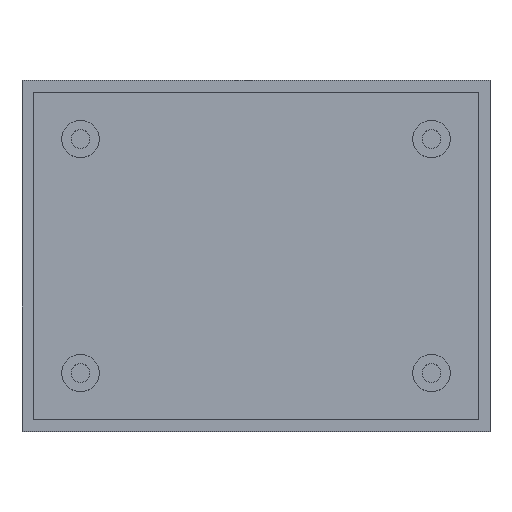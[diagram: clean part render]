
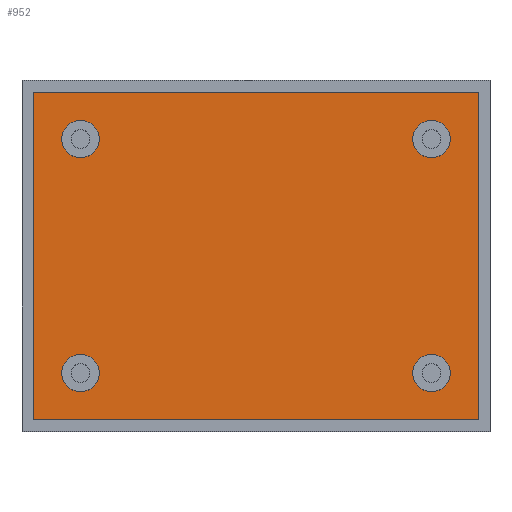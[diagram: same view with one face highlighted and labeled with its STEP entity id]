
A CAD part, top view. The second image highlights one B-rep face of the part: STEP entity #952.
In plain terms, the highlighted planar face has unit normal (0, 0, 1).
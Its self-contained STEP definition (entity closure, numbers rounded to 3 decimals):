
#388 = PLANE('',#389);
#389 = AXIS2_PLACEMENT_3D('',#390,#391,#392);
#390 = CARTESIAN_POINT('',(-38.,-28.,2.));
#391 = DIRECTION('',(0.,1.,0.));
#392 = DIRECTION('',(0.,0.,1.));
#414 = PLANE('',#415);
#415 = AXIS2_PLACEMENT_3D('',#416,#417,#418);
#416 = CARTESIAN_POINT('',(-38.,-28.,2.));
#417 = DIRECTION('',(1.,0.,0.));
#418 = DIRECTION('',(0.,0.,1.));
#440 = PLANE('',#441);
#441 = AXIS2_PLACEMENT_3D('',#442,#443,#444);
#442 = CARTESIAN_POINT('',(-38.,28.,2.));
#443 = DIRECTION('',(0.,1.,0.));
#444 = DIRECTION('',(0.,0.,1.));
#464 = PLANE('',#465);
#465 = AXIS2_PLACEMENT_3D('',#466,#467,#468);
#466 = CARTESIAN_POINT('',(38.,-28.,2.));
#467 = DIRECTION('',(1.,0.,0.));
#468 = DIRECTION('',(0.,0.,1.));
#750 = VERTEX_POINT('',#751);
#751 = CARTESIAN_POINT('',(38.,-28.,2.));
#772 = EDGE_CURVE('',#773,#750,#775,.T.);
#773 = VERTEX_POINT('',#774);
#774 = CARTESIAN_POINT('',(-38.,-28.,2.));
#775 = SURFACE_CURVE('',#776,(#780,#787),.PCURVE_S1.);
#776 = LINE('',#777,#778);
#777 = CARTESIAN_POINT('',(-38.,-28.,2.));
#778 = VECTOR('',#779,1.);
#779 = DIRECTION('',(1.,0.,0.));
#780 = PCURVE('',#388,#781);
#781 = DEFINITIONAL_REPRESENTATION('',(#782),#786);
#782 = LINE('',#783,#784);
#783 = CARTESIAN_POINT('',(0.,0.));
#784 = VECTOR('',#785,1.);
#785 = DIRECTION('',(0.,1.));
#786 = ( GEOMETRIC_REPRESENTATION_CONTEXT(2) 
PARAMETRIC_REPRESENTATION_CONTEXT() REPRESENTATION_CONTEXT('2D SPACE',''
  ) );
#787 = PCURVE('',#788,#793);
#788 = PLANE('',#789);
#789 = AXIS2_PLACEMENT_3D('',#790,#791,#792);
#790 = CARTESIAN_POINT('',(-38.,-28.,2.));
#791 = DIRECTION('',(0.,0.,1.));
#792 = DIRECTION('',(1.,0.,0.));
#793 = DEFINITIONAL_REPRESENTATION('',(#794),#798);
#794 = LINE('',#795,#796);
#795 = CARTESIAN_POINT('',(0.,0.));
#796 = VECTOR('',#797,1.);
#797 = DIRECTION('',(1.,0.));
#798 = ( GEOMETRIC_REPRESENTATION_CONTEXT(2) 
PARAMETRIC_REPRESENTATION_CONTEXT() REPRESENTATION_CONTEXT('2D SPACE',''
  ) );
#832 = EDGE_CURVE('',#750,#833,#835,.T.);
#833 = VERTEX_POINT('',#834);
#834 = CARTESIAN_POINT('',(38.,28.,2.));
#835 = SURFACE_CURVE('',#836,(#840,#847),.PCURVE_S1.);
#836 = LINE('',#837,#838);
#837 = CARTESIAN_POINT('',(38.,-28.,2.));
#838 = VECTOR('',#839,1.);
#839 = DIRECTION('',(0.,1.,0.));
#840 = PCURVE('',#464,#841);
#841 = DEFINITIONAL_REPRESENTATION('',(#842),#846);
#842 = LINE('',#843,#844);
#843 = CARTESIAN_POINT('',(0.,0.));
#844 = VECTOR('',#845,1.);
#845 = DIRECTION('',(0.,-1.));
#846 = ( GEOMETRIC_REPRESENTATION_CONTEXT(2) 
PARAMETRIC_REPRESENTATION_CONTEXT() REPRESENTATION_CONTEXT('2D SPACE',''
  ) );
#847 = PCURVE('',#788,#848);
#848 = DEFINITIONAL_REPRESENTATION('',(#849),#853);
#849 = LINE('',#850,#851);
#850 = CARTESIAN_POINT('',(76.,0.));
#851 = VECTOR('',#852,1.);
#852 = DIRECTION('',(0.,1.));
#853 = ( GEOMETRIC_REPRESENTATION_CONTEXT(2) 
PARAMETRIC_REPRESENTATION_CONTEXT() REPRESENTATION_CONTEXT('2D SPACE',''
  ) );
#881 = EDGE_CURVE('',#882,#833,#884,.T.);
#882 = VERTEX_POINT('',#883);
#883 = CARTESIAN_POINT('',(-38.,28.,2.));
#884 = SURFACE_CURVE('',#885,(#889,#896),.PCURVE_S1.);
#885 = LINE('',#886,#887);
#886 = CARTESIAN_POINT('',(-38.,28.,2.));
#887 = VECTOR('',#888,1.);
#888 = DIRECTION('',(1.,0.,0.));
#889 = PCURVE('',#440,#890);
#890 = DEFINITIONAL_REPRESENTATION('',(#891),#895);
#891 = LINE('',#892,#893);
#892 = CARTESIAN_POINT('',(0.,0.));
#893 = VECTOR('',#894,1.);
#894 = DIRECTION('',(0.,1.));
#895 = ( GEOMETRIC_REPRESENTATION_CONTEXT(2) 
PARAMETRIC_REPRESENTATION_CONTEXT() REPRESENTATION_CONTEXT('2D SPACE',''
  ) );
#896 = PCURVE('',#788,#897);
#897 = DEFINITIONAL_REPRESENTATION('',(#898),#902);
#898 = LINE('',#899,#900);
#899 = CARTESIAN_POINT('',(0.,56.));
#900 = VECTOR('',#901,1.);
#901 = DIRECTION('',(1.,0.));
#902 = ( GEOMETRIC_REPRESENTATION_CONTEXT(2) 
PARAMETRIC_REPRESENTATION_CONTEXT() REPRESENTATION_CONTEXT('2D SPACE',''
  ) );
#930 = EDGE_CURVE('',#773,#882,#931,.T.);
#931 = SURFACE_CURVE('',#932,(#936,#943),.PCURVE_S1.);
#932 = LINE('',#933,#934);
#933 = CARTESIAN_POINT('',(-38.,-28.,2.));
#934 = VECTOR('',#935,1.);
#935 = DIRECTION('',(0.,1.,0.));
#936 = PCURVE('',#414,#937);
#937 = DEFINITIONAL_REPRESENTATION('',(#938),#942);
#938 = LINE('',#939,#940);
#939 = CARTESIAN_POINT('',(0.,0.));
#940 = VECTOR('',#941,1.);
#941 = DIRECTION('',(0.,-1.));
#942 = ( GEOMETRIC_REPRESENTATION_CONTEXT(2) 
PARAMETRIC_REPRESENTATION_CONTEXT() REPRESENTATION_CONTEXT('2D SPACE',''
  ) );
#943 = PCURVE('',#788,#944);
#944 = DEFINITIONAL_REPRESENTATION('',(#945),#949);
#945 = LINE('',#946,#947);
#946 = CARTESIAN_POINT('',(0.,0.));
#947 = VECTOR('',#948,1.);
#948 = DIRECTION('',(0.,1.));
#949 = ( GEOMETRIC_REPRESENTATION_CONTEXT(2) 
PARAMETRIC_REPRESENTATION_CONTEXT() REPRESENTATION_CONTEXT('2D SPACE',''
  ) );
#952 = ADVANCED_FACE('',(#953,#959,#990,#1021,#1052),#788,.T.);
#953 = FACE_BOUND('',#954,.T.);
#954 = EDGE_LOOP('',(#955,#956,#957,#958));
#955 = ORIENTED_EDGE('',*,*,#930,.F.);
#956 = ORIENTED_EDGE('',*,*,#772,.T.);
#957 = ORIENTED_EDGE('',*,*,#832,.T.);
#958 = ORIENTED_EDGE('',*,*,#881,.F.);
#959 = FACE_BOUND('',#960,.T.);
#960 = EDGE_LOOP('',(#961));
#961 = ORIENTED_EDGE('',*,*,#962,.F.);
#962 = EDGE_CURVE('',#963,#963,#965,.T.);
#963 = VERTEX_POINT('',#964);
#964 = CARTESIAN_POINT('',(-26.8,-20.,2.));
#965 = SURFACE_CURVE('',#966,(#971,#978),.PCURVE_S1.);
#966 = CIRCLE('',#967,3.2);
#967 = AXIS2_PLACEMENT_3D('',#968,#969,#970);
#968 = CARTESIAN_POINT('',(-30.,-20.,2.));
#969 = DIRECTION('',(0.,0.,1.));
#970 = DIRECTION('',(1.,0.,0.));
#971 = PCURVE('',#788,#972);
#972 = DEFINITIONAL_REPRESENTATION('',(#973),#977);
#973 = CIRCLE('',#974,3.2);
#974 = AXIS2_PLACEMENT_2D('',#975,#976);
#975 = CARTESIAN_POINT('',(8.,8.));
#976 = DIRECTION('',(1.,0.));
#977 = ( GEOMETRIC_REPRESENTATION_CONTEXT(2) 
PARAMETRIC_REPRESENTATION_CONTEXT() REPRESENTATION_CONTEXT('2D SPACE',''
  ) );
#978 = PCURVE('',#979,#984);
#979 = CYLINDRICAL_SURFACE('',#980,3.2);
#980 = AXIS2_PLACEMENT_3D('',#981,#982,#983);
#981 = CARTESIAN_POINT('',(-30.,-20.,2.));
#982 = DIRECTION('',(0.,0.,1.));
#983 = DIRECTION('',(1.,0.,0.));
#984 = DEFINITIONAL_REPRESENTATION('',(#985),#989);
#985 = LINE('',#986,#987);
#986 = CARTESIAN_POINT('',(0.,0.));
#987 = VECTOR('',#988,1.);
#988 = DIRECTION('',(1.,0.));
#989 = ( GEOMETRIC_REPRESENTATION_CONTEXT(2) 
PARAMETRIC_REPRESENTATION_CONTEXT() REPRESENTATION_CONTEXT('2D SPACE',''
  ) );
#990 = FACE_BOUND('',#991,.T.);
#991 = EDGE_LOOP('',(#992));
#992 = ORIENTED_EDGE('',*,*,#993,.F.);
#993 = EDGE_CURVE('',#994,#994,#996,.T.);
#994 = VERTEX_POINT('',#995);
#995 = CARTESIAN_POINT('',(33.2,-20.,2.));
#996 = SURFACE_CURVE('',#997,(#1002,#1009),.PCURVE_S1.);
#997 = CIRCLE('',#998,3.2);
#998 = AXIS2_PLACEMENT_3D('',#999,#1000,#1001);
#999 = CARTESIAN_POINT('',(30.,-20.,2.));
#1000 = DIRECTION('',(0.,0.,1.));
#1001 = DIRECTION('',(1.,0.,0.));
#1002 = PCURVE('',#788,#1003);
#1003 = DEFINITIONAL_REPRESENTATION('',(#1004),#1008);
#1004 = CIRCLE('',#1005,3.2);
#1005 = AXIS2_PLACEMENT_2D('',#1006,#1007);
#1006 = CARTESIAN_POINT('',(68.,8.));
#1007 = DIRECTION('',(1.,0.));
#1008 = ( GEOMETRIC_REPRESENTATION_CONTEXT(2) 
PARAMETRIC_REPRESENTATION_CONTEXT() REPRESENTATION_CONTEXT('2D SPACE',''
  ) );
#1009 = PCURVE('',#1010,#1015);
#1010 = CYLINDRICAL_SURFACE('',#1011,3.2);
#1011 = AXIS2_PLACEMENT_3D('',#1012,#1013,#1014);
#1012 = CARTESIAN_POINT('',(30.,-20.,2.));
#1013 = DIRECTION('',(0.,0.,1.));
#1014 = DIRECTION('',(1.,0.,0.));
#1015 = DEFINITIONAL_REPRESENTATION('',(#1016),#1020);
#1016 = LINE('',#1017,#1018);
#1017 = CARTESIAN_POINT('',(0.,0.));
#1018 = VECTOR('',#1019,1.);
#1019 = DIRECTION('',(1.,0.));
#1020 = ( GEOMETRIC_REPRESENTATION_CONTEXT(2) 
PARAMETRIC_REPRESENTATION_CONTEXT() REPRESENTATION_CONTEXT('2D SPACE',''
  ) );
#1021 = FACE_BOUND('',#1022,.T.);
#1022 = EDGE_LOOP('',(#1023));
#1023 = ORIENTED_EDGE('',*,*,#1024,.F.);
#1024 = EDGE_CURVE('',#1025,#1025,#1027,.T.);
#1025 = VERTEX_POINT('',#1026);
#1026 = CARTESIAN_POINT('',(-26.8,20.,2.));
#1027 = SURFACE_CURVE('',#1028,(#1033,#1040),.PCURVE_S1.);
#1028 = CIRCLE('',#1029,3.2);
#1029 = AXIS2_PLACEMENT_3D('',#1030,#1031,#1032);
#1030 = CARTESIAN_POINT('',(-30.,20.,2.));
#1031 = DIRECTION('',(0.,0.,1.));
#1032 = DIRECTION('',(1.,0.,0.));
#1033 = PCURVE('',#788,#1034);
#1034 = DEFINITIONAL_REPRESENTATION('',(#1035),#1039);
#1035 = CIRCLE('',#1036,3.2);
#1036 = AXIS2_PLACEMENT_2D('',#1037,#1038);
#1037 = CARTESIAN_POINT('',(8.,48.));
#1038 = DIRECTION('',(1.,0.));
#1039 = ( GEOMETRIC_REPRESENTATION_CONTEXT(2) 
PARAMETRIC_REPRESENTATION_CONTEXT() REPRESENTATION_CONTEXT('2D SPACE',''
  ) );
#1040 = PCURVE('',#1041,#1046);
#1041 = CYLINDRICAL_SURFACE('',#1042,3.2);
#1042 = AXIS2_PLACEMENT_3D('',#1043,#1044,#1045);
#1043 = CARTESIAN_POINT('',(-30.,20.,2.));
#1044 = DIRECTION('',(0.,0.,1.));
#1045 = DIRECTION('',(1.,0.,0.));
#1046 = DEFINITIONAL_REPRESENTATION('',(#1047),#1051);
#1047 = LINE('',#1048,#1049);
#1048 = CARTESIAN_POINT('',(0.,0.));
#1049 = VECTOR('',#1050,1.);
#1050 = DIRECTION('',(1.,0.));
#1051 = ( GEOMETRIC_REPRESENTATION_CONTEXT(2) 
PARAMETRIC_REPRESENTATION_CONTEXT() REPRESENTATION_CONTEXT('2D SPACE',''
  ) );
#1052 = FACE_BOUND('',#1053,.T.);
#1053 = EDGE_LOOP('',(#1054));
#1054 = ORIENTED_EDGE('',*,*,#1055,.F.);
#1055 = EDGE_CURVE('',#1056,#1056,#1058,.T.);
#1056 = VERTEX_POINT('',#1057);
#1057 = CARTESIAN_POINT('',(33.2,20.,2.));
#1058 = SURFACE_CURVE('',#1059,(#1064,#1071),.PCURVE_S1.);
#1059 = CIRCLE('',#1060,3.2);
#1060 = AXIS2_PLACEMENT_3D('',#1061,#1062,#1063);
#1061 = CARTESIAN_POINT('',(30.,20.,2.));
#1062 = DIRECTION('',(0.,0.,1.));
#1063 = DIRECTION('',(1.,0.,0.));
#1064 = PCURVE('',#788,#1065);
#1065 = DEFINITIONAL_REPRESENTATION('',(#1066),#1070);
#1066 = CIRCLE('',#1067,3.2);
#1067 = AXIS2_PLACEMENT_2D('',#1068,#1069);
#1068 = CARTESIAN_POINT('',(68.,48.));
#1069 = DIRECTION('',(1.,0.));
#1070 = ( GEOMETRIC_REPRESENTATION_CONTEXT(2) 
PARAMETRIC_REPRESENTATION_CONTEXT() REPRESENTATION_CONTEXT('2D SPACE',''
  ) );
#1071 = PCURVE('',#1072,#1077);
#1072 = CYLINDRICAL_SURFACE('',#1073,3.2);
#1073 = AXIS2_PLACEMENT_3D('',#1074,#1075,#1076);
#1074 = CARTESIAN_POINT('',(30.,20.,2.));
#1075 = DIRECTION('',(0.,0.,1.));
#1076 = DIRECTION('',(1.,0.,0.));
#1077 = DEFINITIONAL_REPRESENTATION('',(#1078),#1082);
#1078 = LINE('',#1079,#1080);
#1079 = CARTESIAN_POINT('',(0.,0.));
#1080 = VECTOR('',#1081,1.);
#1081 = DIRECTION('',(1.,0.));
#1082 = ( GEOMETRIC_REPRESENTATION_CONTEXT(2) 
PARAMETRIC_REPRESENTATION_CONTEXT() REPRESENTATION_CONTEXT('2D SPACE',''
  ) );
